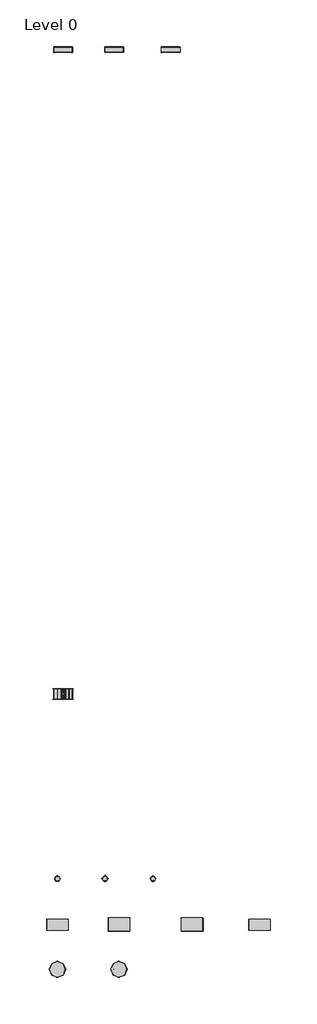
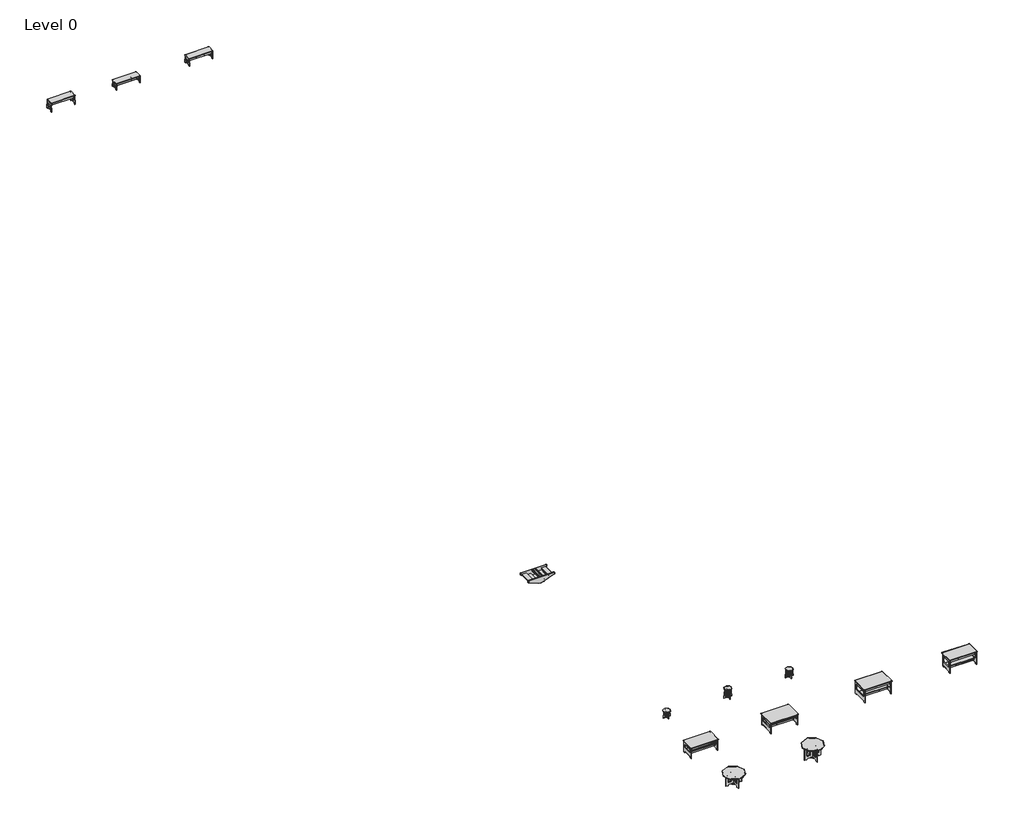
# One storey, incomplete: 13 furniture elements.
"""IFC4 building model written with IfcOpenShell, lengths in millimetres."""

from ifc_helpers import new_model, si_unit, origin, place, context, project, spatial, transform, mapped, element, save
from components import furniture_97a84487, furniture_70d26ff8, furniture_348bbf7f, furniture_094c6500, furniture_0e07e83f, furniture_33aa7544, furniture_a1ef9f8f, furniture_c4f83efa, furniture_ed4c9207, furniture_44d3f149, furniture_abc39f0b, furniture_0a677c5e, furniture_15270cb6, furniture_d0157fcb, furniture_25313ccf, furniture_f012aeb6, furniture_1be7e667, furniture_00084a0a, furniture_50d7e158, furniture_e856df1a, furniture_84a5843a, furniture_e8232bf5, furniture_fb746d1f, furniture_5d3cc5c7, furniture_01b70b8d, furniture_ba2c45e2, furniture_69e445c5, furniture_96137fb8, furniture_5581bd78, furniture_6a51af63

model = new_model("IFC4")

# Units and contexts
model_context = context("Model", 3, world=origin())
ifc_project = project(units=[si_unit("LENGTHUNIT", "METRE", prefix="MILLI")], contexts=[model_context])

# Site, building, storey
site = spatial("IfcSite", under=ifc_project)
building = spatial("IfcBuilding", under=site)
storey = spatial("IfcBuildingStorey", under=building, Name="Level 0", Elevation=0.0)

# Furniture
placement = place(None, origin())
furniture_shape = furniture_97a84487(model_context)
furniture_2_shape = furniture_70d26ff8(model_context)
element("IfcFurniture", 1, ObjectType="SSL-Childcraft_Outdoor-Table-Round : 2161358", at=placement, inside=storey, context=model_context, shape_type="MappedRepresentation", body=[
    mapped(furniture_shape, transform((-7752.145937, -42708.7245204, 0.0), x_axis=(1.0, 0.0, 0.0), y_axis=(0.0, 1.0, 0.0), z_axis=(0.0, 0.0, 1.0))),
    mapped(furniture_2_shape, transform((-7752.145937, -42708.7245204, 0.0), x_axis=(1.0, 0.0, 0.0), y_axis=(0.0, 1.0, 0.0), z_axis=(0.0, 0.0, 1.0))),
])
furniture_3_shape = furniture_348bbf7f(model_context)
furniture_4_shape = furniture_094c6500(model_context)
element("IfcFurniture", 2, ObjectType="SSL-Childcraft_Outdoor-Table-Round : 2161364", at=placement, inside=storey, context=model_context, shape_type="MappedRepresentation", body=[
    mapped(furniture_3_shape, transform((-4289.1756629, -42708.7245204, 0.0), x_axis=(1.0, 0.0, 0.0), y_axis=(0.0, 1.0, 0.0), z_axis=(0.0, 0.0, 1.0))),
    mapped(furniture_4_shape, transform((-4289.1756629, -42708.7245204, 0.0), x_axis=(1.0, 0.0, 0.0), y_axis=(0.0, 1.0, 0.0), z_axis=(0.0, 0.0, 1.0))),
])
furniture_5_shape = furniture_0e07e83f(model_context)
furniture_6_shape = furniture_33aa7544(model_context)
element("IfcFurniture", 3, ObjectType="SSL-Childcraft_Outdoor-Bench : 2161361", at=placement, inside=storey, context=model_context, shape_type="MappedRepresentation", body=[
    mapped(furniture_5_shape, transform((-5097.4904208, 9190.6845405, 0.0), x_axis=(1.0, 0.0, 0.0), y_axis=(0.0, 1.0, 0.0), z_axis=(0.0, 0.0, 1.0))),
    mapped(furniture_6_shape, transform((-5097.4904208, 9190.6845405, 0.0), x_axis=(1.0, 0.0, 0.0), y_axis=(0.0, 1.0, 0.0), z_axis=(0.0, 0.0, 1.0))),
])
furniture_7_shape = furniture_a1ef9f8f(model_context)
furniture_8_shape = furniture_c4f83efa(model_context)
element("IfcFurniture", 4, ObjectType="SSL-Childcraft_Outdoor-Bench : 2161365", at=placement, inside=storey, context=model_context, shape_type="MappedRepresentation", body=[
    mapped(furniture_7_shape, transform((-1908.3132452, 9190.6845405, 0.0), x_axis=(1.0, 0.0, 0.0), y_axis=(0.0, 1.0, 0.0), z_axis=(0.0, 0.0, 1.0))),
    mapped(furniture_8_shape, transform((-1908.3132452, 9190.6845405, 0.0), x_axis=(1.0, 0.0, 0.0), y_axis=(0.0, 1.0, 0.0), z_axis=(0.0, 0.0, 1.0))),
])
furniture_9_shape = furniture_ed4c9207(model_context)
furniture_10_shape = furniture_44d3f149(model_context)
element("IfcFurniture", 5, ObjectType="SSL-Childcraft_Outdoor-Bench : 2161359", at=placement, inside=storey, context=model_context, shape_type="MappedRepresentation", body=[
    mapped(furniture_9_shape, transform((-7965.0698981, 9190.6845405, 0.0), x_axis=(1.0, 0.0, 0.0), y_axis=(0.0, 1.0, 0.0), z_axis=(0.0, 0.0, 1.0))),
    mapped(furniture_10_shape, transform((-7965.0698981, 9190.6845405, 0.0), x_axis=(1.0, 0.0, 0.0), y_axis=(0.0, 1.0, 0.0), z_axis=(0.0, 0.0, 1.0))),
])
furniture_11_shape = furniture_abc39f0b(model_context)
furniture_12_shape = furniture_0a677c5e(model_context)
element("IfcFurniture", 6, ObjectType="SSL-Childcraft_Outdoor-Rocking_Boat : 2163503", at=placement, inside=storey, context=model_context, shape_type="MappedRepresentation", body=[
    mapped(furniture_11_shape, transform((-7431.6698981, -27212.5850532, 0.0), x_axis=(1.0, 0.0, 0.0), y_axis=(0.0, 1.0, 0.0), z_axis=(0.0, 0.0, 1.0))),
    mapped(furniture_12_shape, transform((-7431.6698981, -27212.5850532, 0.0), x_axis=(1.0, 0.0, 0.0), y_axis=(0.0, 1.0, 0.0), z_axis=(0.0, 0.0, 1.0))),
])
furniture_13_shape = furniture_15270cb6(model_context)
furniture_14_shape = furniture_d0157fcb(model_context)
element("IfcFurniture", 7, ObjectType="SSL-Childcraft_Outdoor-Stool : 2161352", at=placement, inside=storey, context=model_context, shape_type="MappedRepresentation", body=[
    mapped(furniture_13_shape, transform((-7752.145937, -37606.2063732, 0.0), x_axis=(1.0, 0.0, 0.0), y_axis=(0.0, 1.0, 0.0), z_axis=(0.0, 0.0, 1.0))),
    mapped(furniture_14_shape, transform((-7752.145937, -37606.2063732, 0.0), x_axis=(1.0, 0.0, 0.0), y_axis=(0.0, 1.0, 0.0), z_axis=(0.0, 0.0, 1.0))),
])
furniture_15_shape = furniture_25313ccf(model_context)
furniture_16_shape = furniture_f012aeb6(model_context)
element("IfcFurniture", 8, ObjectType="SSL-Childcraft_Outdoor-Stool : 2161353", at=placement, inside=storey, context=model_context, shape_type="MappedRepresentation", body=[
    mapped(furniture_15_shape, transform((-5070.6424062, -37606.2063732, 0.0), x_axis=(1.0, 0.0, 0.0), y_axis=(0.0, 1.0, 0.0), z_axis=(0.0, 0.0, 1.0))),
    mapped(furniture_16_shape, transform((-5070.6424062, -37606.2063732, 0.0), x_axis=(1.0, 0.0, 0.0), y_axis=(0.0, 1.0, 0.0), z_axis=(0.0, 0.0, 1.0))),
])
furniture_17_shape = furniture_1be7e667(model_context)
furniture_18_shape = furniture_00084a0a(model_context)
element("IfcFurniture", 9, ObjectType="SSL-Childcraft_Outdoor-Stool : 2161356", at=placement, inside=storey, context=model_context, shape_type="MappedRepresentation", body=[
    mapped(furniture_17_shape, transform((-2373.8159981, -37606.2063732, 0.0), x_axis=(1.0, 0.0, 0.0), y_axis=(0.0, 1.0, 0.0), z_axis=(0.0, 0.0, 1.0))),
    mapped(furniture_18_shape, transform((-2373.8159981, -37606.2063732, 0.0), x_axis=(1.0, 0.0, 0.0), y_axis=(0.0, 1.0, 0.0), z_axis=(0.0, 0.0, 1.0))),
])
furniture_19_shape = furniture_50d7e158(model_context)
furniture_20_shape = furniture_e856df1a(model_context)
furniture_21_shape = furniture_84a5843a(model_context)
element("IfcFurniture", 10, ObjectType="SSL-Childcraft_Outdoor-Table-Rectangle : 2161350", at=placement, inside=storey, context=model_context, shape_type="MappedRepresentation", body=[
    mapped(furniture_19_shape, transform((-7752.145937, -40195.7726401, 0.0), x_axis=(1.0, 0.0, 0.0), y_axis=(0.0, 1.0, 0.0), z_axis=(0.0, 0.0, 1.0))),
    mapped(furniture_20_shape, transform((-7752.145937, -40195.7726401, 0.0), x_axis=(1.0, 0.0, 0.0), y_axis=(0.0, 1.0, 0.0), z_axis=(0.0, 0.0, 1.0))),
    mapped(furniture_21_shape, transform((-7752.145937, -40195.7726401, 0.0), x_axis=(1.0, 0.0, 0.0), y_axis=(0.0, 1.0, 0.0), z_axis=(0.0, 0.0, 1.0))),
])
furniture_22_shape = furniture_e8232bf5(model_context)
furniture_23_shape = furniture_fb746d1f(model_context)
furniture_24_shape = furniture_5d3cc5c7(model_context)
element("IfcFurniture", 11, ObjectType="SSL-Childcraft_Outdoor-Table-Rectangle : 2161362", at=placement, inside=storey, context=model_context, shape_type="MappedRepresentation", body=[
    mapped(furniture_22_shape, transform((3617.4290336, -40195.7726401, 0.0), x_axis=(1.0, 0.0, 0.0), y_axis=(0.0, 1.0, 0.0), z_axis=(0.0, 0.0, 1.0))),
    mapped(furniture_23_shape, transform((3617.4290336, -40195.7726401, 0.0), x_axis=(1.0, 0.0, 0.0), y_axis=(0.0, 1.0, 0.0), z_axis=(0.0, 0.0, 1.0))),
    mapped(furniture_24_shape, transform((3617.4290336, -40195.7726401, 0.0), x_axis=(1.0, 0.0, 0.0), y_axis=(0.0, 1.0, 0.0), z_axis=(0.0, 0.0, 1.0))),
])
furniture_25_shape = furniture_01b70b8d(model_context)
furniture_26_shape = furniture_ba2c45e2(model_context)
furniture_27_shape = furniture_69e445c5(model_context)
element("IfcFurniture", 12, ObjectType="SSL-Childcraft_Outdoor-Table-Rectangle : 2161354", at=placement, inside=storey, context=model_context, shape_type="MappedRepresentation", body=[
    mapped(furniture_25_shape, transform((-4289.1756629, -40195.7726401, 0.0), x_axis=(1.0, 0.0, 0.0), y_axis=(0.0, 1.0, 0.0), z_axis=(0.0, 0.0, 1.0))),
    mapped(furniture_26_shape, transform((-4289.1756629, -40195.7726401, 0.0), x_axis=(1.0, 0.0, 0.0), y_axis=(0.0, 1.0, 0.0), z_axis=(0.0, 0.0, 1.0))),
    mapped(furniture_27_shape, transform((-4289.1756629, -40195.7726401, 0.0), x_axis=(1.0, 0.0, 0.0), y_axis=(0.0, 1.0, 0.0), z_axis=(0.0, 0.0, 1.0))),
])
furniture_28_shape = furniture_96137fb8(model_context)
furniture_29_shape = furniture_5581bd78(model_context)
furniture_30_shape = furniture_6a51af63(model_context)
element("IfcFurniture", 13, ObjectType="SSL-Childcraft_Outdoor-Table-Rectangle : 2161355", at=placement, inside=storey, context=model_context, shape_type="MappedRepresentation", body=[
    mapped(furniture_28_shape, transform((-167.3216641, -40195.7726401, 0.0), x_axis=(1.0, 0.0, 0.0), y_axis=(0.0, 1.0, 0.0), z_axis=(0.0, 0.0, 1.0))),
    mapped(furniture_29_shape, transform((-167.3216641, -40195.7726401, 0.0), x_axis=(1.0, 0.0, 0.0), y_axis=(0.0, 1.0, 0.0), z_axis=(0.0, 0.0, 1.0))),
    mapped(furniture_30_shape, transform((-167.3216641, -40195.7726401, 0.0), x_axis=(1.0, 0.0, 0.0), y_axis=(0.0, 1.0, 0.0), z_axis=(0.0, 0.0, 1.0))),
])

save(model, "model.ifc")
